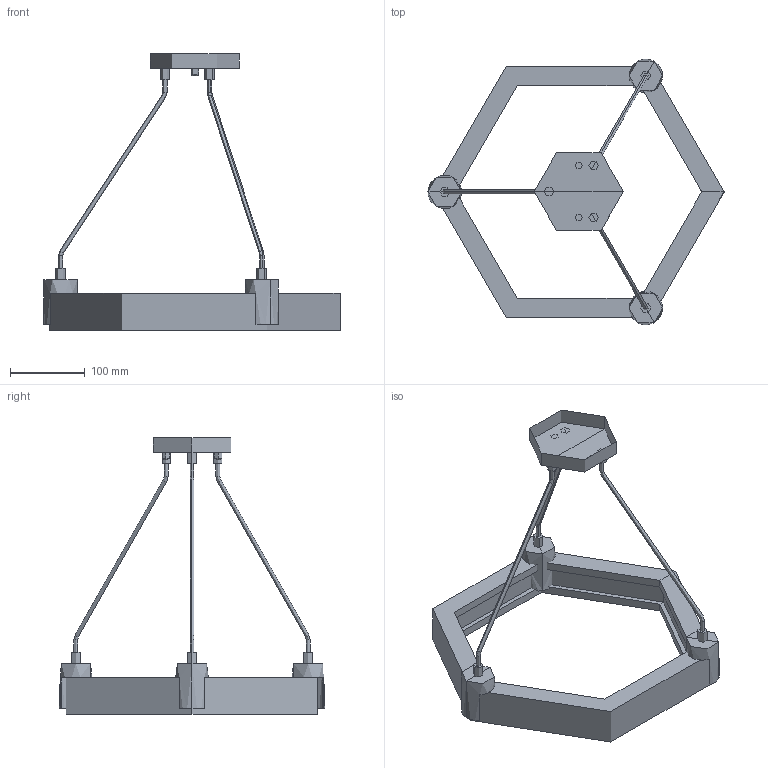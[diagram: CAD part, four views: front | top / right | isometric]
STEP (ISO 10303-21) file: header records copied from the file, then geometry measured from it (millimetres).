
FILE_DESCRIPTION(/* description */ (''),/* implementation_level */ '2;1');
FILE_NAME(/* name */ 'Eclora Chandelier',/* time_stamp */ '2026-06-10T18:58:49+08:00',/* author */ (''),/* organization */ (''),/* preprocessor_version */ 'ST-DEVELOPER v19.2',/* originating_system */ 'Rhino 8.25',/* authorisation */ '');
FILE_SCHEMA (('CONFIG_CONTROL_DESIGN'));
Length unit declared in the file: millimetre
Products named in the file (1): Document
Bounding box: 397.5 x 356.67 x 371.67 mm (x, y, z)
Volume: 1530771.1 mm3; surface area: 261722.4 mm2
Topology: 12 solids, 17 shells, 125 faces, 278 edges, 176 vertices
Faces by surface type: cylinder 50, plane 50, bspline 25
Entity records: 4302 total; most frequent: CARTESIAN_POINT 1717, ORIENTED_EDGE 490, DIRECTION 403, EDGE_CURVE 275, AXIS2_PLACEMENT_3D 250, VERTEX_POINT 176, TRIMMED_CURVE 146, CIRCLE 146
